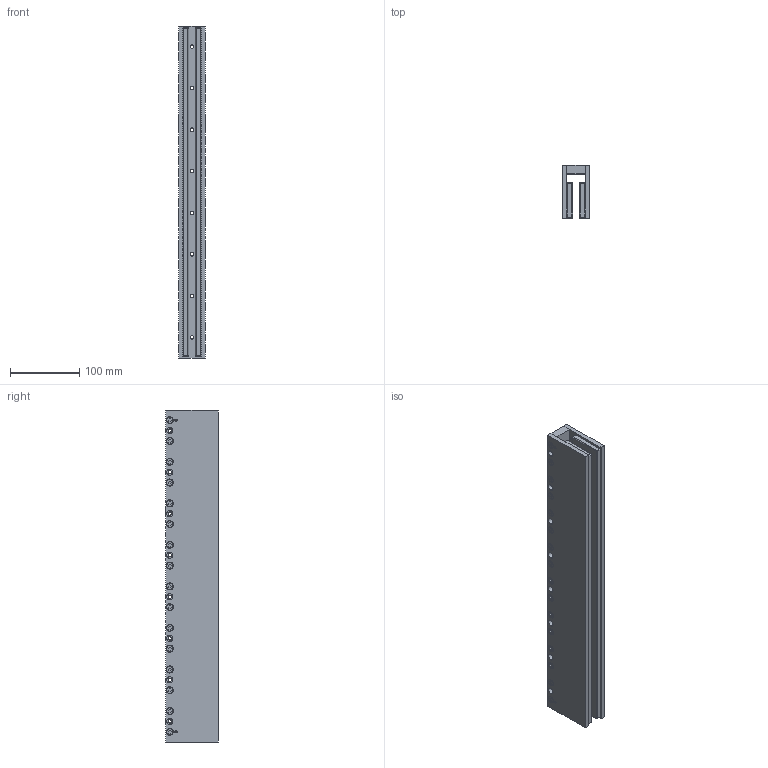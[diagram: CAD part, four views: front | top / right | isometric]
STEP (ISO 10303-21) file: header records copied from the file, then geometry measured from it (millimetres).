
FILE_DESCRIPTION (( 'STEP AP214' ), '1' );
FILE_NAME ('DX50F-TL480.step', '2021-01-04T09:38:47', ( '' ), ( '' ), 'SwSTEP 2.0', 'SolidWorks 2020', '' );
FILE_SCHEMA (( 'AUTOMOTIVE_DESIGN' ));
Length unit declared in the file: millimetre
Products named in the file (1): DX50F-TL480
Bounding box: 38.7 x 76.2 x 479.5 mm (x, y, z)
Volume: 979748.8 mm3; surface area: 216741.3 mm2
Topology: 1 solids, 17 shells, 922 faces, 1994 edges, 1252 vertices
Faces by surface type: plane 426, cylinder 416, torus 64, sphere 16
Entity records: 35274 total; most frequent: DIRECTION 4688, CARTESIAN_POINT 4249, ORIENTED_EDGE 3956, EDGE_CURVE 1978, AXIS2_PLACEMENT_3D 1819, VERTEX_POINT 1252, EDGE_LOOP 1140, VECTOR 1050
